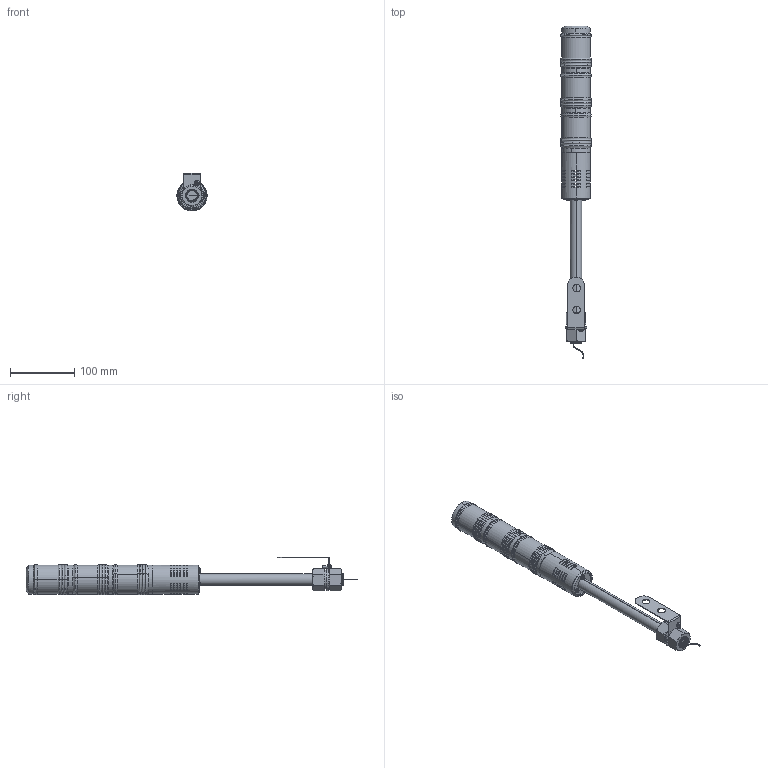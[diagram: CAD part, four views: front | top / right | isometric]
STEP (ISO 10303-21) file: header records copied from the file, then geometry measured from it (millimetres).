
FILE_DESCRIPTION (( 'STEP AP214' ), '1' );
FILE_NAME ('3D 沓麧錪 MT45-RYG24B.STEP', '2020-07-23T07:59:47', ( '' ), ( '' ), 'SwSTEP 2.0', 'SolidWorks 2015', '' );
FILE_SCHEMA (( 'AUTOMOTIVE_DESIGN' ));
Length unit declared in the file: millimetre
Products named in the file (21): hex nut gradec_din_Hexagon Nut ISO 4034 - M20 - N; ëàìïà_çåëåíàÿ_00; ëàìïà_æåëòàÿ_00; pan head cross recess screw_din_ISO 7045 - M3 x 4 - Z --- 4N; hex thin nut gradeb_din_Hexagon Nut ISO 4036 - M4 - N; curved spring lock washer_din_Spring washer DIN 128 - A18; êðàñíûé öâåò_00; âåðõíÿÿ êðûøêà_00; plain washer grade a_din_Washer DIN 125 - A 19; êðàñíàÿ_00; pan head cross recess screw_din_ISO 7045 - M4 x 10 - Z --- 10N; plain washer 6902 type abc_din_DIN 6902-A2.75; 扰鍙欙樥燲00; plain washer 7349 heavy_din_DIN 7349-3.2-St; 驽腧  鲡弪_00; çåëåíûé öâåò_00; 膰豵鵨_MT45-RYG24B_00; 3D 沓麧錪 MT45-RYG24B; curved spring lock washer_din_Spring washer DIN 128 - A3; 耱嚯铄 觐朦鲱_00; pan head cross recess screw_din_ISO 7045 - M3 x 12 - Z --- 12N
Assembly tree (29 placements, depth 2):
  3D 沓麧錪 MT45-RYG24B
    膰豵鵨_MT45-RYG24B_00
    扰鍙欙樥燲00
    curved spring lock washer_din_Spring washer DIN 128 - A18
    plain washer grade a_din_Washer DIN 125 - A 19
    hex nut gradec_din_Hexagon Nut ISO 4034 - M20 - N  x2
    pan head cross recess screw_din_ISO 7045 - M4 x 10 - Z --- 10N
    hex thin nut gradeb_din_Hexagon Nut ISO 4036 - M4 - N
    plain washer 6902 type abc_din_DIN 6902-A2.75  x3
    curved spring lock washer_din_Spring washer DIN 128 - A3  x3
    pan head cross recess screw_din_ISO 7045 - M3 x 12 - Z --- 12N  x3
    耱嚯铄 觐朦鲱_00  x3
    çåëåíûé öâåò_00
    驽腧  鲡弪_00
    êðàñíûé öâåò_00
    âåðõíÿÿ êðûøêà_00
    plain washer 7349 heavy_din_DIN 7349-3.2-St
    pan head cross recess screw_din_ISO 7045 - M3 x 4 - Z --- 4N
    ëàìïà_çåëåíàÿ_00
    ëàìïà_æåëòàÿ_00
    êðàñíàÿ_00
Bounding box: 47 x 516.71 x 58.5 mm (x, y, z)
Volume: 154323.6 mm3; surface area: 146434.3 mm2
Topology: 29 solids, 29 shells, 1329 faces, 3468 edges, 2186 vertices
Faces by surface type: plane 701, cylinder 324, torus 192, cone 94, sphere 10, bspline 8
Entity records: 44445 total; most frequent: CARTESIAN_POINT 10232, DIRECTION 6487, ORIENTED_EDGE 6216, EDGE_CURVE 3108, AXIS2_PLACEMENT_3D 2356, VERTEX_POINT 1976, VECTOR 1775, LINE 1775
